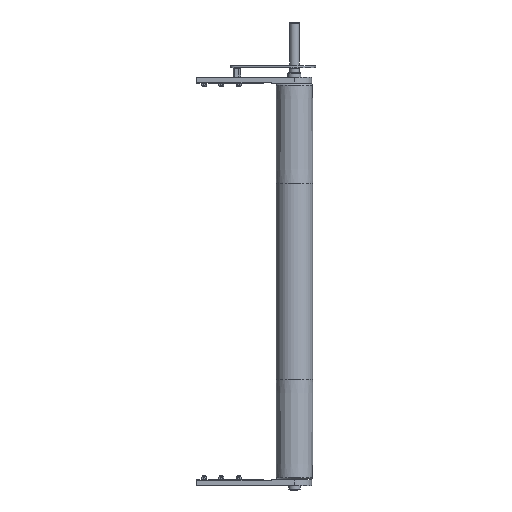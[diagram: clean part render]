
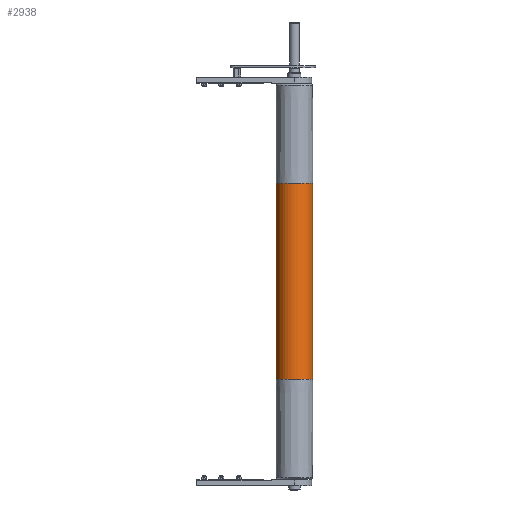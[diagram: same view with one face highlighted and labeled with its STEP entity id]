
A CAD part, front view. The second image highlights one B-rep face of the part: STEP entity #2938.
In plain terms, the highlighted cylindrical face has radius 47.5 mm (diameter 95 mm), a partial arc.
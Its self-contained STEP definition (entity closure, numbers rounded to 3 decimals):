
#1663 = ORIENTED_EDGE ( 'NONE', *, *, #8750, .T. ) ;
#2086 = CARTESIAN_POINT ( 'NONE',  ( -255., 0., 47.5 ) ) ;
#2090 = CARTESIAN_POINT ( 'NONE',  ( -255., 0., -47.5 ) ) ;
#2221 = VERTEX_POINT ( 'NONE', #11741 ) ;
#2343 = AXIS2_PLACEMENT_3D ( 'NONE', #9139, #20923, #21074 ) ;
#2344 = DIRECTION ( 'NONE',  ( -1., 0., 0. ) ) ;
#2923 = VERTEX_POINT ( 'NONE', #2090 ) ;
#2938 = ADVANCED_FACE ( 'NONE', ( #6162 ), #17872, .T. ) ;
#3199 = DIRECTION ( 'NONE',  ( 1., 0., 0. ) ) ;
#3751 = ORIENTED_EDGE ( 'NONE', *, *, #13071, .T. ) ;
#3833 = DIRECTION ( 'NONE',  ( -1., 0., 0. ) ) ;
#4166 = CIRCLE ( 'NONE', #2343, 47.5 ) ;
#6162 = FACE_OUTER_BOUND ( 'NONE', #12910, .T. ) ;
#6521 = AXIS2_PLACEMENT_3D ( 'NONE', #7743, #18167, #19663 ) ;
#6957 = VERTEX_POINT ( 'NONE', #2086 ) ;
#7556 = LINE ( 'NONE', #12554, #15811 ) ;
#7743 = CARTESIAN_POINT ( 'NONE',  ( 510., 0., 0. ) ) ;
#8150 = DIRECTION ( 'NONE',  ( 0., 0., -1. ) ) ;
#8369 = CARTESIAN_POINT ( 'NONE',  ( -255., 0., 0. ) ) ;
#8424 = VERTEX_POINT ( 'NONE', #16300 ) ;
#8750 = EDGE_CURVE ( 'NONE', #2221, #6957, #7556, .T. ) ;
#9139 = CARTESIAN_POINT ( 'NONE',  ( 255., 0., 0. ) ) ;
#11240 = AXIS2_PLACEMENT_3D ( 'NONE', #8369, #3199, #8150 ) ;
#11741 = CARTESIAN_POINT ( 'NONE',  ( 255., 0., 47.5 ) ) ;
#12554 = CARTESIAN_POINT ( 'NONE',  ( 510., 0., 47.5 ) ) ;
#12910 = EDGE_LOOP ( 'NONE', ( #16473, #13292, #1663, #3751 ) ) ;
#13071 = EDGE_CURVE ( 'NONE', #6957, #2923, #13612, .T. ) ;
#13292 = ORIENTED_EDGE ( 'NONE', *, *, #21457, .F. ) ;
#13612 = CIRCLE ( 'NONE', #11240, 47.5 ) ;
#14343 = LINE ( 'NONE', #17209, #20775 ) ;
#15147 = EDGE_CURVE ( 'NONE', #8424, #2923, #14343, .T. ) ;
#15811 = VECTOR ( 'NONE', #3833, 1000. ) ;
#16300 = CARTESIAN_POINT ( 'NONE',  ( 255., 0., -47.5 ) ) ;
#16473 = ORIENTED_EDGE ( 'NONE', *, *, #15147, .F. ) ;
#17209 = CARTESIAN_POINT ( 'NONE',  ( 510., 0., -47.5 ) ) ;
#17872 = CYLINDRICAL_SURFACE ( 'NONE', #6521, 47.5 ) ;
#18167 = DIRECTION ( 'NONE',  ( -1., 0., 0. ) ) ;
#19663 = DIRECTION ( 'NONE',  ( 0., 0., 1. ) ) ;
#20775 = VECTOR ( 'NONE', #2344, 1000. ) ;
#20923 = DIRECTION ( 'NONE',  ( 1., 0., 0. ) ) ;
#21074 = DIRECTION ( 'NONE',  ( 0., 0., -1. ) ) ;
#21457 = EDGE_CURVE ( 'NONE', #2221, #8424, #4166, .T. ) ;
